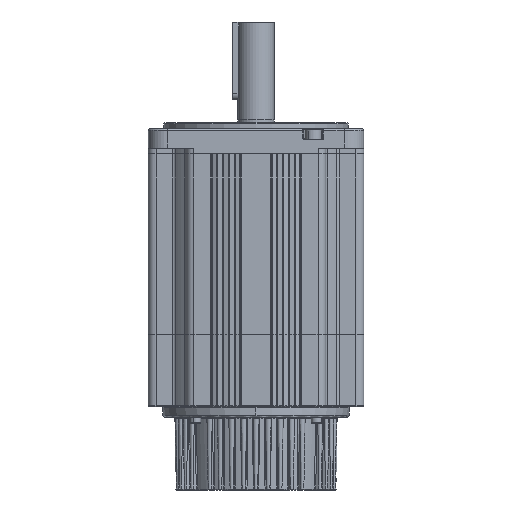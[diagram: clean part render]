
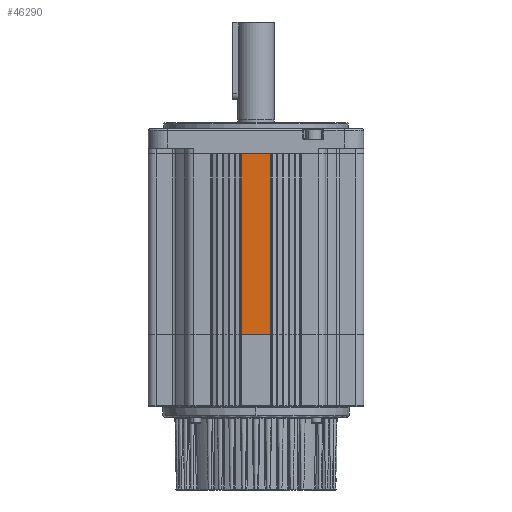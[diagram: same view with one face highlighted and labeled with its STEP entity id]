
A CAD part, front view. The second image highlights one B-rep face of the part: STEP entity #46290.
In plain terms, the highlighted planar face has unit normal (0, -1, 0) as drawn and (1, 0, 0) by its records, which use the part's own axes.
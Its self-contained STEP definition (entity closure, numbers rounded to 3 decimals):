
#201 = LINE ( 'NONE', #43086, #86559 ) ;
#6521 = EDGE_LOOP ( 'NONE', ( #51874, #58417, #94334, #87197 ) ) ;
#12101 = DIRECTION ( 'NONE',  ( -1., 0., 0. ) ) ;
#13863 = CARTESIAN_POINT ( 'NONE',  ( 55.5, 7.7, 0. ) ) ;
#13968 = EDGE_CURVE ( 'NONE', #97273, #94454, #97163, .T. ) ;
#18244 = CARTESIAN_POINT ( 'NONE',  ( 55.5, 7.7, 93. ) ) ;
#28808 = DIRECTION ( 'NONE',  ( 0., 1., 0. ) ) ;
#32471 = EDGE_CURVE ( 'NONE', #41067, #76475, #61574, .T. ) ;
#33215 = AXIS2_PLACEMENT_3D ( 'NONE', #43053, #12101, #97057 ) ;
#41067 = VERTEX_POINT ( 'NONE', #67152 ) ;
#42918 = EDGE_CURVE ( 'NONE', #41067, #97273, #201, .T. ) ;
#43053 = CARTESIAN_POINT ( 'NONE',  ( 55.5, -8., 93. ) ) ;
#43086 = CARTESIAN_POINT ( 'NONE',  ( 55.5, -7.7, 93. ) ) ;
#44258 = CARTESIAN_POINT ( 'NONE',  ( 55.5, -7.7, 0. ) ) ;
#46290 = ADVANCED_FACE ( 'NONE', ( #50736 ), #90248, .F. ) ;
#47486 = EDGE_CURVE ( 'NONE', #94454, #76475, #97859, .T. ) ;
#50736 = FACE_OUTER_BOUND ( 'NONE', #6521, .T. ) ;
#50861 = DIRECTION ( 'NONE',  ( 0., 0., -1. ) ) ;
#51874 = ORIENTED_EDGE ( 'NONE', *, *, #32471, .F. ) ;
#58417 = ORIENTED_EDGE ( 'NONE', *, *, #42918, .T. ) ;
#61574 = LINE ( 'NONE', #83042, #94297 ) ;
#66350 = DIRECTION ( 'NONE',  ( 0., 0., 1. ) ) ;
#67152 = CARTESIAN_POINT ( 'NONE',  ( 55.5, -7.7, 93. ) ) ;
#75114 = VECTOR ( 'NONE', #28808, 1000. ) ;
#76475 = VERTEX_POINT ( 'NONE', #18244 ) ;
#83042 = CARTESIAN_POINT ( 'NONE',  ( 55.5, -8., 93. ) ) ;
#86559 = VECTOR ( 'NONE', #50861, 1000. ) ;
#87197 = ORIENTED_EDGE ( 'NONE', *, *, #47486, .T. ) ;
#90005 = CARTESIAN_POINT ( 'NONE',  ( 55.5, -8., 0. ) ) ;
#90248 = PLANE ( 'NONE',  #33215 ) ;
#91818 = VECTOR ( 'NONE', #66350, 1000. ) ;
#91890 = DIRECTION ( 'NONE',  ( 0., 1., 0. ) ) ;
#94297 = VECTOR ( 'NONE', #91890, 1000. ) ;
#94334 = ORIENTED_EDGE ( 'NONE', *, *, #13968, .T. ) ;
#94454 = VERTEX_POINT ( 'NONE', #13863 ) ;
#96903 = CARTESIAN_POINT ( 'NONE',  ( 55.5, 7.7, 93. ) ) ;
#97057 = DIRECTION ( 'NONE',  ( 0., 0., 1. ) ) ;
#97163 = LINE ( 'NONE', #90005, #75114 ) ;
#97273 = VERTEX_POINT ( 'NONE', #44258 ) ;
#97859 = LINE ( 'NONE', #96903, #91818 ) ;
